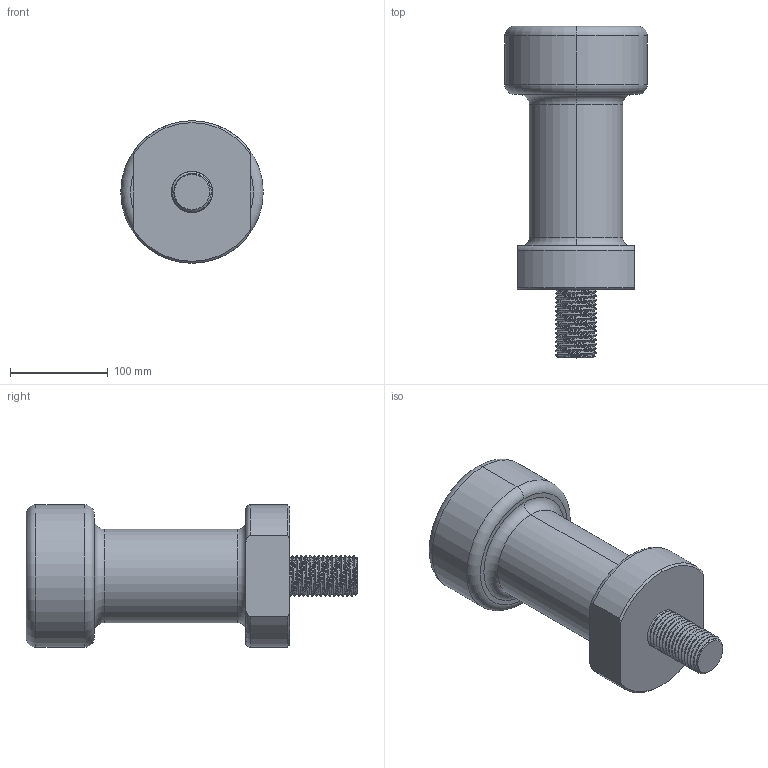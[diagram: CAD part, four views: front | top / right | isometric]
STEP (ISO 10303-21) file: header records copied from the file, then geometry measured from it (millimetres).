
FILE_DESCRIPTION (( 'STEP AP214' ), '1' );
FILE_NAME ('Plots_M42.STEP', '2022-03-14T16:29:13', ( '' ), ( '' ), 'SwSTEP 2.0', 'SolidWorks 2021', '' );
FILE_SCHEMA (( 'AUTOMOTIVE_DESIGN' ));
Length unit declared in the file: millimetre
Products named in the file (1): Plots_M42
Bounding box: 146 x 340 x 146 mm (x, y, z)
Volume: 3053935.8 mm3; surface area: 157931.7 mm2
Topology: 1 solids, 1 shells, 66 faces, 172 edges, 111 vertices
Faces by surface type: cylinder 38, torus 11, plane 8, cone 5, bspline 4
Entity records: 14041 total; most frequent: CARTESIAN_POINT 12567, ORIENTED_EDGE 344, DIRECTION 258, EDGE_CURVE 172, VERTEX_POINT 111, AXIS2_PLACEMENT_3D 106, EDGE_LOOP 69, FACE_OUTER_BOUND 66
